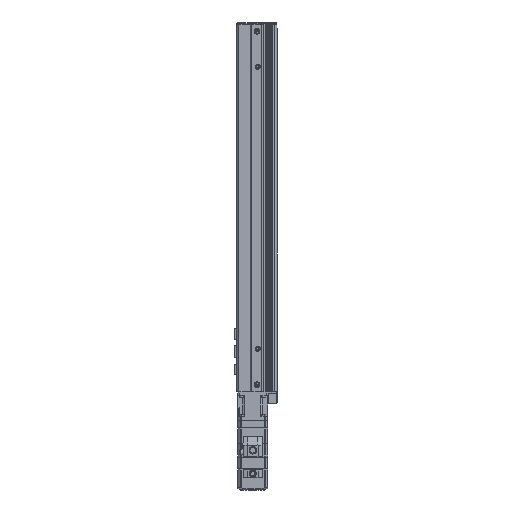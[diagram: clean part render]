
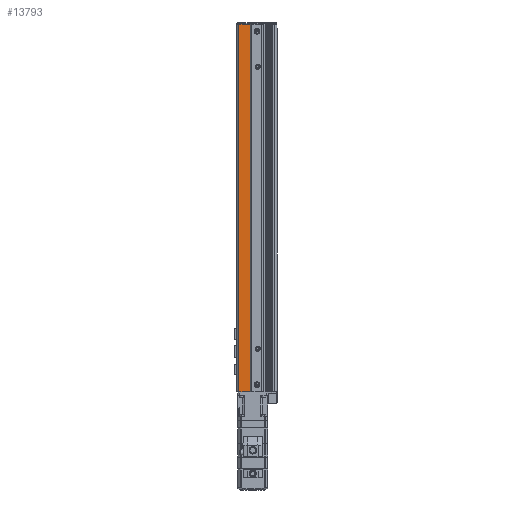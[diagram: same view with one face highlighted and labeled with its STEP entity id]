
A CAD part, left-side view. The second image highlights one B-rep face of the part: STEP entity #13793.
In plain terms, the highlighted planar face has unit normal (-1, 0, 0).
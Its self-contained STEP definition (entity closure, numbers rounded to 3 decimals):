
#3234 = VERTEX_POINT ( 'NONE', #21241 ) ;
#3257 = EDGE_CURVE ( 'NONE', #4029, #3234, #21262, .T. ) ;
#3626 = VERTEX_POINT ( 'NONE', #22692 ) ;
#3672 = EDGE_CURVE ( 'NONE', #4022, #3626, #22921, .T. ) ;
#4022 = VERTEX_POINT ( 'NONE', #24063 ) ;
#4029 = VERTEX_POINT ( 'NONE', #24042 ) ;
#4040 = EDGE_CURVE ( 'NONE', #4029, #4022, #24032, .T. ) ;
#13724 = ORIENTED_EDGE ( 'NONE', *, *, #13728, .T. ) ;
#13727 = ORIENTED_EDGE ( 'NONE', *, *, #4040, .T. ) ;
#13728 = EDGE_CURVE ( 'NONE', #3626, #3234, #32587, .T. ) ;
#13732 = ORIENTED_EDGE ( 'NONE', *, *, #3672, .T. ) ;
#13793 = ADVANCED_FACE ( 'NONE', ( #32766 ), #32762, .F. ) ;
#13795 = EDGE_LOOP ( 'NONE', ( #13799, #13727, #13732, #13724 ) ) ;
#13799 = ORIENTED_EDGE ( 'NONE', *, *, #3257, .F. ) ;
#21241 = CARTESIAN_POINT ( 'NONE',  ( -22.5, 3.5, 0. ) ) ;
#21262 = LINE ( 'NONE', #21378, #21376 ) ;
#21374 = DIRECTION ( 'NONE',  ( 0., 0., -1. ) ) ;
#21376 = VECTOR ( 'NONE', #21374, 1000. ) ;
#21378 = CARTESIAN_POINT ( 'NONE',  ( -22.5, 3.5, 1750. ) ) ;
#22692 = CARTESIAN_POINT ( 'NONE',  ( -22.5, 19.5, 0. ) ) ;
#22909 = DIRECTION ( 'NONE',  ( 0., 0., -1. ) ) ;
#22910 = VECTOR ( 'NONE', #22909, 1000. ) ;
#22912 = CARTESIAN_POINT ( 'NONE',  ( -22.5, 19.5, -1233. ) ) ;
#22921 = LINE ( 'NONE', #22912, #22910 ) ;
#24028 = DIRECTION ( 'NONE',  ( 0., 1., 0. ) ) ;
#24030 = VECTOR ( 'NONE', #24028, 1000. ) ;
#24032 = LINE ( 'NONE', #24065, #24030 ) ;
#24042 = CARTESIAN_POINT ( 'NONE',  ( -22.5, 3.5, 517. ) ) ;
#24063 = CARTESIAN_POINT ( 'NONE',  ( -22.5, 19.5, 517. ) ) ;
#24065 = CARTESIAN_POINT ( 'NONE',  ( -22.5, -34., 517. ) ) ;
#32574 = DIRECTION ( 'NONE',  ( 0., -1., 0. ) ) ;
#32575 = VECTOR ( 'NONE', #32574, 1000. ) ;
#32586 = CARTESIAN_POINT ( 'NONE',  ( -22.5, -34., 0. ) ) ;
#32587 = LINE ( 'NONE', #32586, #32575 ) ;
#32762 = PLANE ( 'NONE',  #32773 ) ;
#32766 = FACE_OUTER_BOUND ( 'NONE', #13795, .T. ) ;
#32771 = DIRECTION ( 'NONE',  ( 1., 0., 0. ) ) ;
#32773 = AXIS2_PLACEMENT_3D ( 'NONE', #32805, #32771, #32776 ) ;
#32776 = DIRECTION ( 'NONE',  ( 0., 0., -1. ) ) ;
#32805 = CARTESIAN_POINT ( 'NONE',  ( -22.5, -34., -1233. ) ) ;
